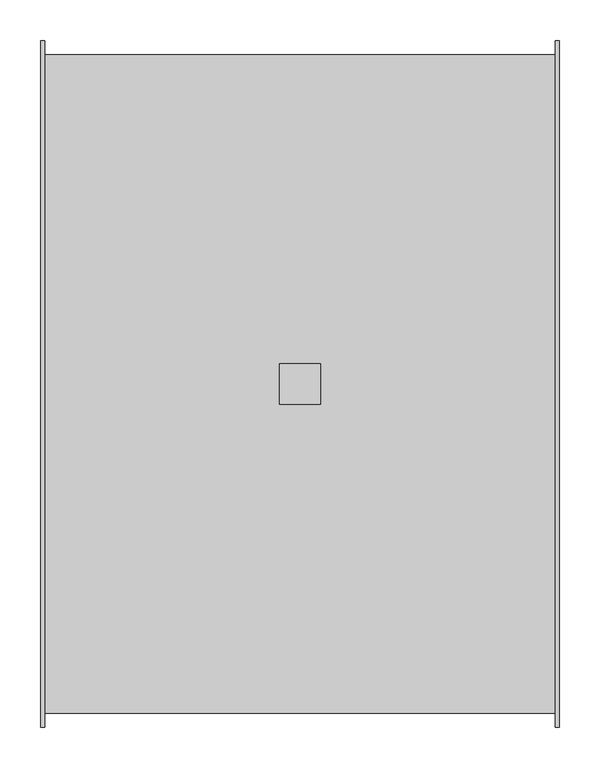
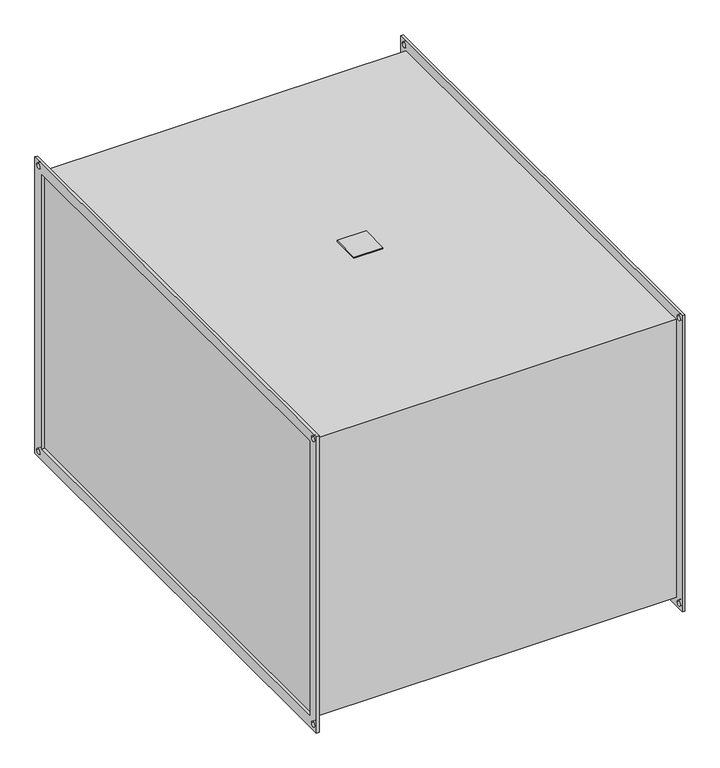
"""IFC4 building model written with IfcOpenShell, lengths in millimetres: proxy geometry, KORF_Вентилятор_WNP : WNP 80-50/35R.2D."""

from ifc_helpers import new_model, si_unit, point, frame, frame_2d, origin, place, context, project, spatial, polyline, circle_curve, trimmed, segment, composite_curve, outline, extrude, source, transform, mapped, element, save


def mechanical_equipment_3ebce5d1(model_context):
    return source(origin(), model_context, "Body", "SweptSolid", [
        extrude(outline(polyline([(292.5, -25.0), (292.5, 25.0), (342.5, 25.0), (342.5, -25.0), (292.5, -25.0)])), frame((0.0, 0.0, 253.0), z_axis=(0.0, 0.0, 1.0), x_axis=(1.0, 0.0, 0.0)), (0.0, 0.0, 1.0), 2.0),
        extrude(outline(polyline([(-420.0, 270.0), (420.0, 270.0), (420.0, -270.0), (-420.0, -270.0), (-420.0, 270.0)]), holes=[polyline([(-400.0, 250.0), (-400.0, -250.0), (400.0, -250.0), (400.0, 250.0), (-400.0, 250.0)]), composite_curve([segment(trimmed(circle_curve(frame_2d((410.0, 260.0)), 4.5), [point((405.5, 260.0))], [point((414.5, 260.0))], True, "CARTESIAN"), True, "CONTINUOUS"), segment(trimmed(circle_curve(frame_2d((410.0, 260.0)), 4.5), [point((414.5, 260.0))], [point((405.5, 260.0))], True, "CARTESIAN"), True, "CONTINUOUS")], self_intersect=False), composite_curve([segment(trimmed(circle_curve(frame_2d((-410.0, 260.0)), 4.5), [point((-414.5, 260.0))], [point((-405.5, 260.0))], True, "CARTESIAN"), True, "CONTINUOUS"), segment(trimmed(circle_curve(frame_2d((-410.0, 260.0)), 4.5), [point((-405.5, 260.0))], [point((-414.5, 260.0))], True, "CARTESIAN"), True, "CONTINUOUS")], self_intersect=False), composite_curve([segment(trimmed(circle_curve(frame_2d((-410.0, -260.0)), 4.5), [point((-414.5, -260.0))], [point((-405.5, -260.0))], True, "CARTESIAN"), True, "CONTINUOUS"), segment(trimmed(circle_curve(frame_2d((-410.0, -260.0)), 4.5), [point((-405.5, -260.0))], [point((-414.5, -260.0))], True, "CARTESIAN"), True, "CONTINUOUS")], self_intersect=False), composite_curve([segment(trimmed(circle_curve(frame_2d((410.0, -260.0)), 4.5), [point((405.5, -260.0))], [point((414.5, -260.0))], True, "CARTESIAN"), True, "CONTINUOUS"), segment(trimmed(circle_curve(frame_2d((410.0, -260.0)), 4.5), [point((414.5, -260.0))], [point((405.5, -260.0))], True, "CARTESIAN"), True, "CONTINUOUS")], self_intersect=False)]), frame((630.0, 0.0, 0.0), z_axis=(1.0, 0.0, 0.0), x_axis=(0.0, 1.0, 0.0)), (0.0, 0.0, 1.0), 5.0),
        extrude(outline(polyline([(-420.0, 270.0), (420.0, 270.0), (420.0, -270.0), (-420.0, -270.0), (-420.0, 270.0)]), holes=[polyline([(-400.0, 250.0), (-400.0, -250.0), (400.0, -250.0), (400.0, 250.0), (-400.0, 250.0)]), composite_curve([segment(trimmed(circle_curve(frame_2d((410.0, 260.0)), 4.5), [point((405.5, 260.0))], [point((414.5, 260.0))], True, "CARTESIAN"), True, "CONTINUOUS"), segment(trimmed(circle_curve(frame_2d((410.0, 260.0)), 4.5), [point((414.5, 260.0))], [point((405.5, 260.0))], True, "CARTESIAN"), True, "CONTINUOUS")], self_intersect=False), composite_curve([segment(trimmed(circle_curve(frame_2d((-410.0, 260.0)), 4.5), [point((-414.5, 260.0))], [point((-405.5, 260.0))], True, "CARTESIAN"), True, "CONTINUOUS"), segment(trimmed(circle_curve(frame_2d((-410.0, 260.0)), 4.5), [point((-405.5, 260.0))], [point((-414.5, 260.0))], True, "CARTESIAN"), True, "CONTINUOUS")], self_intersect=False), composite_curve([segment(trimmed(circle_curve(frame_2d((-410.0, -260.0)), 4.5), [point((-414.5, -260.0))], [point((-405.5, -260.0))], True, "CARTESIAN"), True, "CONTINUOUS"), segment(trimmed(circle_curve(frame_2d((-410.0, -260.0)), 4.5), [point((-405.5, -260.0))], [point((-414.5, -260.0))], True, "CARTESIAN"), True, "CONTINUOUS")], self_intersect=False), composite_curve([segment(trimmed(circle_curve(frame_2d((410.0, -260.0)), 4.5), [point((405.5, -260.0))], [point((414.5, -260.0))], True, "CARTESIAN"), True, "CONTINUOUS"), segment(trimmed(circle_curve(frame_2d((410.0, -260.0)), 4.5), [point((414.5, -260.0))], [point((405.5, -260.0))], True, "CARTESIAN"), True, "CONTINUOUS")], self_intersect=False)]), frame((0.0, 0.0, 0.0), z_axis=(1.0, 0.0, 0.0), x_axis=(0.0, 1.0, 0.0)), (0.0, 0.0, 1.0), 5.0),
        extrude(outline(polyline([(630.0, 403.0), (630.0, -403.0), (5.0, -403.0), (5.0, 403.0), (630.0, 403.0)])), frame((0.0, 0.0, -253.0), z_axis=(0.0, 0.0, 1.0), x_axis=(1.0, 0.0, 0.0)), (0.0, 0.0, 1.0), 506.0),
    ])


if __name__ == "__main__":
    model = new_model("IFC4")
    model_context = context("Model", 3, world=origin())
    ifc_project = project(units=[si_unit("LENGTHUNIT", "METRE", prefix="MILLI")], contexts=[model_context])
    site = spatial("IfcSite", under=ifc_project)
    building = spatial("IfcBuilding", under=site)
    placement = place(None, origin())
    mechanical_equipment_shape = mechanical_equipment_3ebce5d1(model_context)
    element("IfcBuildingElementProxy", 1, Name="KORF_Вентилятор_WNP : WNP 80-50/35R.2D", ObjectType="KORF_Вентилятор_WNP : WNP 80-50/35R.2D", at=placement, inside=building, context=model_context, shape_type="MappedRepresentation", body=[
        mapped(mechanical_equipment_shape, transform((0.0, 0.0, 0.0), x_axis=(1.0, 0.0, 0.0), y_axis=(0.0, 1.0, 0.0), z_axis=(0.0, 0.0, 1.0))),
    ])
    save(model, "model.ifc")
